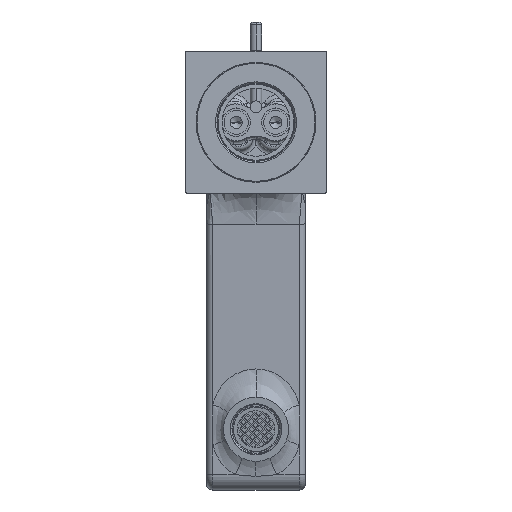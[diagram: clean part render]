
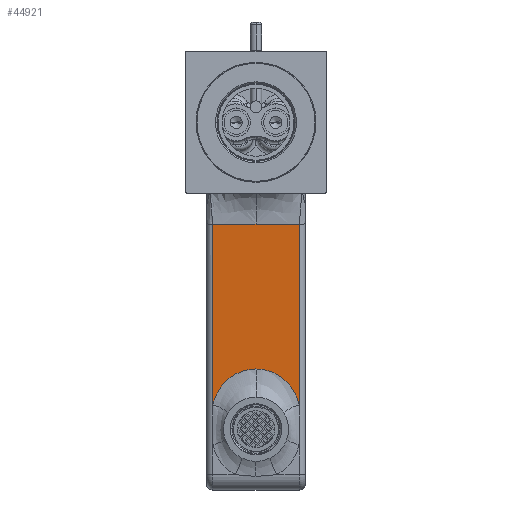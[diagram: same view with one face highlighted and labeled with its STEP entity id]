
A CAD part, front view. The second image highlights one B-rep face of the part: STEP entity #44921.
In plain terms, the highlighted planar face has unit normal (0, -0.996, -0.087).
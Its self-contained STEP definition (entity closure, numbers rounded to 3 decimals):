
#3933=CARTESIAN_POINT('',(15.3,106.876,-99.86));
#3934=CARTESIAN_POINT('',(15.235,106.853,-99.604));
#3935=CARTESIAN_POINT('',(15.094,106.809,-99.095));
#3936=CARTESIAN_POINT('',(14.854,106.743,-98.348));
#3937=CARTESIAN_POINT('',(14.585,106.68,-97.617));
#3938=CARTESIAN_POINT('',(14.291,106.617,-96.907));
#3939=CARTESIAN_POINT('',(13.971,106.557,-96.217));
#3940=CARTESIAN_POINT('',(13.627,106.499,-95.55));
#3941=CARTESIAN_POINT('',(13.26,106.442,-94.906));
#3942=CARTESIAN_POINT('',(12.873,106.388,-94.287));
#3943=CARTESIAN_POINT('',(12.466,106.336,-93.694));
#3944=CARTESIAN_POINT('',(12.04,106.287,-93.126));
#3945=CARTESIAN_POINT('',(11.596,106.239,-92.584));
#3946=CARTESIAN_POINT('',(11.136,106.194,-92.068));
#3947=CARTESIAN_POINT('',(10.659,106.151,-91.578));
#3948=CARTESIAN_POINT('',(10.167,106.111,-91.113));
#3949=CARTESIAN_POINT('',(9.661,106.072,-90.675));
#3950=CARTESIAN_POINT('',(9.14,106.036,-90.261));
#3951=CARTESIAN_POINT('',(8.606,106.002,-89.874));
#3952=CARTESIAN_POINT('',(8.058,105.97,-89.511));
#3953=CARTESIAN_POINT('',(7.497,105.941,-89.175));
#3954=CARTESIAN_POINT('',(6.924,105.914,-88.863));
#3955=CARTESIAN_POINT('',(6.339,105.889,-88.577));
#3956=CARTESIAN_POINT('',(5.742,105.866,-88.318));
#3957=CARTESIAN_POINT('',(5.135,105.846,-88.084));
#3958=CARTESIAN_POINT('',(4.518,105.827,-87.877));
#3959=CARTESIAN_POINT('',(3.892,105.812,-87.696));
#3960=CARTESIAN_POINT('',(3.258,105.798,-87.542));
#3961=CARTESIAN_POINT('',(2.616,105.787,-87.416));
#3962=CARTESIAN_POINT('',(1.968,105.778,-87.317));
#3963=CARTESIAN_POINT('',(1.315,105.772,-87.247));
#3964=CARTESIAN_POINT('',(0.659,105.769,
-87.204));
#3965=CARTESIAN_POINT('',(0.22,105.768,-87.195));
#3966=CARTESIAN_POINT('',(0.,105.768,
-87.195));
#3968=CARTESIAN_POINT('',(0.,105.768,
-87.195));
#3969=CARTESIAN_POINT('',(-0.22,105.768,
-87.195));
#3970=CARTESIAN_POINT('',(-0.659,105.769,
-87.204));
#3971=CARTESIAN_POINT('',(-1.316,105.772,
-87.247));
#3972=CARTESIAN_POINT('',(-1.969,105.778,
-87.318));
#3973=CARTESIAN_POINT('',(-2.617,105.787,
-87.416));
#3974=CARTESIAN_POINT('',(-3.259,105.798,
-87.543));
#3975=CARTESIAN_POINT('',(-3.894,105.812,
-87.696));
#3976=CARTESIAN_POINT('',(-4.521,105.827,
-87.877));
#3977=CARTESIAN_POINT('',(-5.138,105.846,
-88.084));
#3978=CARTESIAN_POINT('',(-5.745,105.866,
-88.318));
#3979=CARTESIAN_POINT('',(-6.341,105.889,
-88.578));
#3980=CARTESIAN_POINT('',(-6.927,105.914,
-88.864));
#3981=CARTESIAN_POINT('',(-7.5,105.941,
-89.175));
#3982=CARTESIAN_POINT('',(-8.061,105.97,
-89.512));
#3983=CARTESIAN_POINT('',(-8.609,106.002,
-89.874));
#3984=CARTESIAN_POINT('',(-9.143,106.036,
-90.262));
#3985=CARTESIAN_POINT('',(-9.664,106.072,
-90.675));
#3986=CARTESIAN_POINT('',(-10.17,106.111,
-91.114));
#3987=CARTESIAN_POINT('',(-10.662,106.151,
-91.578));
#3988=CARTESIAN_POINT('',(-11.138,106.194,
-92.068));
#3989=CARTESIAN_POINT('',(-11.598,106.239,
-92.584));
#3990=CARTESIAN_POINT('',(-12.041,106.287,
-93.126));
#3991=CARTESIAN_POINT('',(-12.467,106.336,
-93.694));
#3992=CARTESIAN_POINT('',(-12.874,106.388,
-94.287));
#3993=CARTESIAN_POINT('',(-13.261,106.442,
-94.906));
#3994=CARTESIAN_POINT('',(-13.627,106.499,
-95.549));
#3995=CARTESIAN_POINT('',(-13.971,106.557,
-96.216));
#3996=CARTESIAN_POINT('',(-14.291,106.617,
-96.906));
#3997=CARTESIAN_POINT('',(-14.586,106.68,
-97.617));
#3998=CARTESIAN_POINT('',(-14.854,106.743,
-98.347));
#3999=CARTESIAN_POINT('',(-15.094,106.809,
-99.095));
#4000=CARTESIAN_POINT('',(-15.235,106.853,
-99.604));
#4001=CARTESIAN_POINT('',(-15.3,106.876,-99.86));
#4003=DIRECTION('',(0.,-0.087,0.996));
#4004=VECTOR('',#4003,64.104);
#4005=CARTESIAN_POINT('',(-15.3,106.876,-99.86));
#4006=LINE('',#4005,#4004);
#4007=DIRECTION('',(0.,0.087,-0.996));
#4008=VECTOR('',#4007,64.104);
#4009=CARTESIAN_POINT('',(15.3,101.289,-36.));
#4010=LINE('',#4009,#4008);
#7002=CARTESIAN_POINT('',(-15.3,101.289,
-36.));
#7020=CARTESIAN_POINT('',(0.,101.289,-36.));
#7022=DIRECTION('',(1.,0.,0.));
#7023=VECTOR('',#7022,11.668);
#7024=CARTESIAN_POINT('',(-11.668,101.289,
-36.));
#7025=LINE('',#7024,#7023);
#7026=DIRECTION('',(1.,0.,0.));
#7027=VECTOR('',#7026,3.632);
#7028=CARTESIAN_POINT('',(-15.3,101.289,
-36.));
#7029=LINE('',#7028,#7027);
#7112=CARTESIAN_POINT('',(15.3,101.289,-36.));
#7114=DIRECTION('',(-1.,0.,0.));
#7115=VECTOR('',#7114,3.632);
#7116=CARTESIAN_POINT('',(15.3,101.289,-36.));
#7117=LINE('',#7116,#7115);
#7118=DIRECTION('',(-1.,0.,0.));
#7119=VECTOR('',#7118,11.668);
#7120=CARTESIAN_POINT('',(11.668,101.289,-36.));
#7121=LINE('',#7120,#7119);
#36100=VERTEX_POINT('',#7020);
#36146=CARTESIAN_POINT('',(11.668,101.289,
-36.));
#36147=VERTEX_POINT('',#36146);
#36148=CARTESIAN_POINT('',(-11.668,101.289,
-36.));
#36149=VERTEX_POINT('',#36148);
#36288=VERTEX_POINT('',#7002);
#36293=VERTEX_POINT('',#7112);
#36407=VERTEX_POINT('',#3933);
#36408=VERTEX_POINT('',#3966);
#36411=VERTEX_POINT('',#4001);
#44900=CARTESIAN_POINT('',(15.5,111.,-147.));
#44901=DIRECTION('',(0.,0.996,0.087));
#44902=DIRECTION('',(-1.,0.,0.));
#44903=AXIS2_PLACEMENT_3D('',#44900,#44901,#44902);
#44904=PLANE('',#44903);
#44906=ORIENTED_EDGE('',*,*,#44905,.T.);
#44907=ORIENTED_EDGE('',*,*,#44890,.T.);
#44908=ORIENTED_EDGE('',*,*,#44442,.T.);
#44910=ORIENTED_EDGE('',*,*,#44909,.T.);
#44912=ORIENTED_EDGE('',*,*,#44911,.T.);
#44914=ORIENTED_EDGE('',*,*,#44913,.F.);
#44916=ORIENTED_EDGE('',*,*,#44915,.F.);
#44918=ORIENTED_EDGE('',*,*,#44917,.T.);
#44919=EDGE_LOOP('',(#44906,#44907,#44908,#44910,#44912,#44914,#44916,#44918));
#44920=FACE_OUTER_BOUND('',#44919,.F.);
#44921=ADVANCED_FACE('',(#44920),#44904,.F.);
#3967=B_SPLINE_CURVE_WITH_KNOTS('',3,(#3933,#3934,#3935,#3936,#3937,#3938,#3939,
#3940,#3941,#3942,#3943,#3944,#3945,#3946,#3947,#3948,#3949,#3950,#3951,#3952,
#3953,#3954,#3955,#3956,#3957,#3958,#3959,#3960,#3961,#3962,#3963,#3964,#3965,
#3966),.UNSPECIFIED.,.F.,.F.,(4,1,1,1,1,1,1,1,1,1,1,1,1,1,1,1,1,1,1,1,1,1,1,1,1,
1,1,1,1,1,1,4),(0.,0.032,0.065,0.097,
0.129,0.161,0.194,0.226,
0.258,0.29,0.323,0.355,
0.387,0.419,0.452,0.484,
0.516,0.548,0.581,0.613,
0.645,0.677,0.71,0.742,
0.774,0.806,0.839,0.871,
0.903,0.935,0.968,1.),.UNSPECIFIED.);
#4002=B_SPLINE_CURVE_WITH_KNOTS('',3,(#3968,#3969,#3970,#3971,#3972,#3973,#3974,
#3975,#3976,#3977,#3978,#3979,#3980,#3981,#3982,#3983,#3984,#3985,#3986,#3987,
#3988,#3989,#3990,#3991,#3992,#3993,#3994,#3995,#3996,#3997,#3998,#3999,#4000,
#4001),.UNSPECIFIED.,.F.,.F.,(4,1,1,1,1,1,1,1,1,1,1,1,1,1,1,1,1,1,1,1,1,1,1,1,1,
1,1,1,1,1,1,4),(0.,0.032,0.065,0.097,
0.129,0.161,0.194,0.226,
0.258,0.29,0.323,0.355,
0.387,0.419,0.452,0.484,
0.516,0.548,0.581,0.613,
0.645,0.677,0.71,0.742,
0.774,0.806,0.839,0.871,
0.903,0.935,0.968,1.),.UNSPECIFIED.);
#44442=EDGE_CURVE('',#36411,#36288,#4006,.T.);
#44890=EDGE_CURVE('',#36408,#36411,#4002,.T.);
#44905=EDGE_CURVE('',#36407,#36408,#3967,.T.);
#44909=EDGE_CURVE('',#36288,#36149,#7029,.T.);
#44911=EDGE_CURVE('',#36149,#36100,#7025,.T.);
#44913=EDGE_CURVE('',#36147,#36100,#7121,.T.);
#44915=EDGE_CURVE('',#36293,#36147,#7117,.T.);
#44917=EDGE_CURVE('',#36293,#36407,#4010,.T.);
